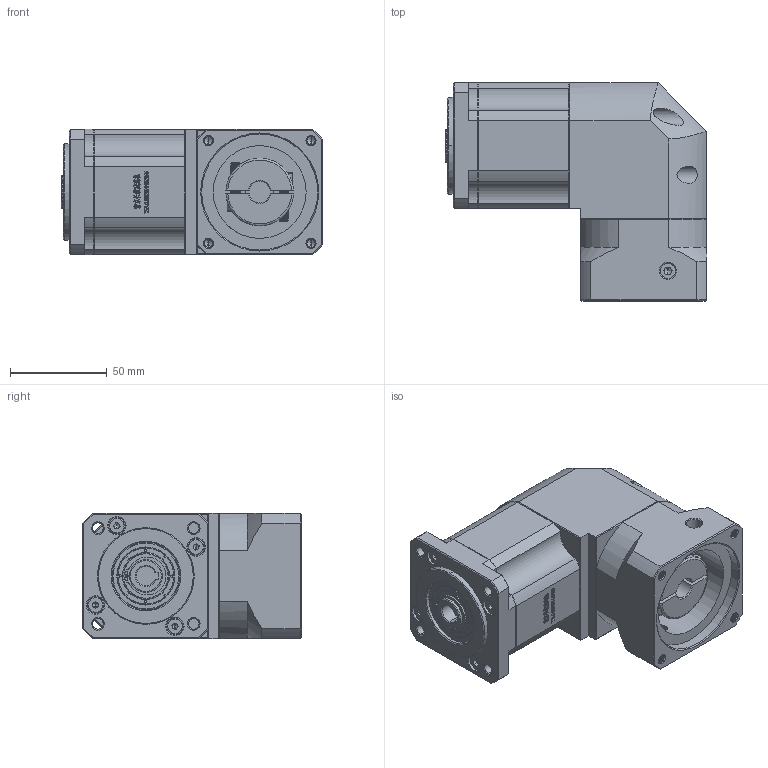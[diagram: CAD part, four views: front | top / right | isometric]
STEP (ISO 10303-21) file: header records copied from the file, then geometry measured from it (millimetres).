
FILE_DESCRIPTION (( 'STEP AP214' ), '1' );
FILE_NAME ('ZBR60-K10-L2-11-60-75-M5.STEP', '2022-04-19T08:47:28', ( '' ), ( 'Microsoft' ), 'SwSTEP 2.0', 'SolidWorks 2016', '' );
FILE_SCHEMA (( 'AUTOMOTIVE_DESIGN' ));
Length unit declared in the file: millimetre
Products named in the file (1): ZBR60-K10-L2-11-60-75-M5
Bounding box: 135 x 112.7 x 65 mm (x, y, z)
Volume: 594500.2 mm3; surface area: 82125.1 mm2
Topology: 5 solids, 5 shells, 2790 faces, 7539 edges, 4888 vertices
Faces by surface type: plane 1469, bspline 584, cylinder 393, cone 324, torus 20
Entity records: 149481 total; most frequent: CARTESIAN_POINT 52790, ORIENTED_EDGE 15022, DIRECTION 11477, EDGE_CURVE 7511, VECTOR 5007, LINE 5007, VERTEX_POINT 4888, AXIS2_PLACEMENT_3D 3235
